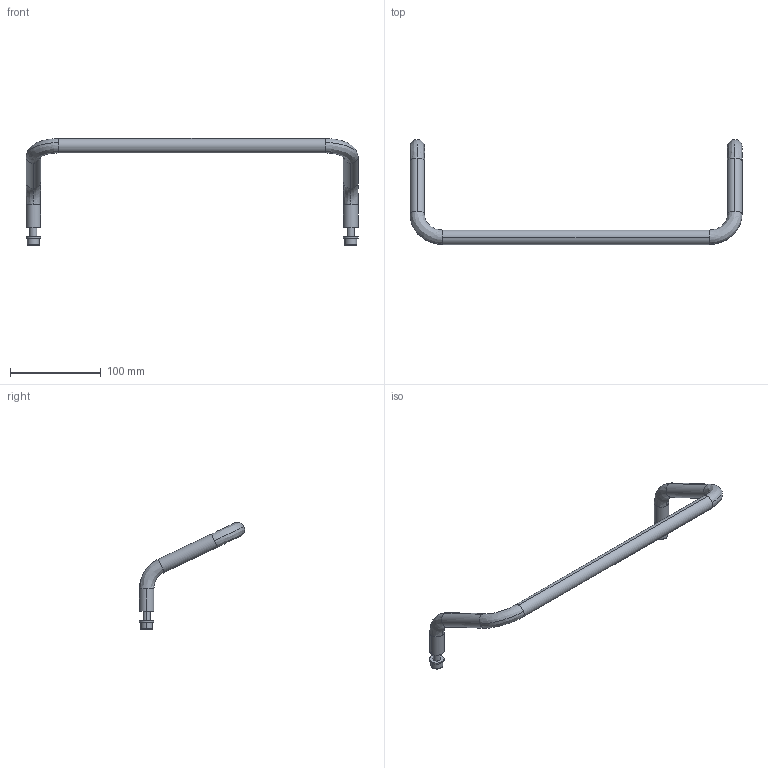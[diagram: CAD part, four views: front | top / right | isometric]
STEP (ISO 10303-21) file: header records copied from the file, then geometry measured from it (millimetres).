
FILE_DESCRIPTION (( 'STEP AP203' ), '1' );
FILE_NAME ('OICH350.STEP', '2018-02-01T14:06:49', ( '' ), ( '' ), 'SwSTEP 2.0', 'SolidWorks 2017', '' );
FILE_SCHEMA (( 'CONFIG_CONTROL_DESIGN' ));
Length unit declared in the file: millimetre
Products named in the file (2): OICH350
Bounding box: 366 x 115.98 x 118 mm (x, y, z)
Volume: 130339.2 mm3; surface area: 35102.4 mm2
Topology: 7 solids, 7 shells, 58 faces, 122 edges, 86 vertices
Faces by surface type: plane 24, cylinder 22, bspline 12
Entity records: 2461 total; most frequent: CARTESIAN_POINT 1064, DIRECTION 270, ORIENTED_EDGE 244, EDGE_CURVE 122, AXIS2_PLACEMENT_3D 116, VERTEX_POINT 86, CIRCLE 68, EDGE_LOOP 66
